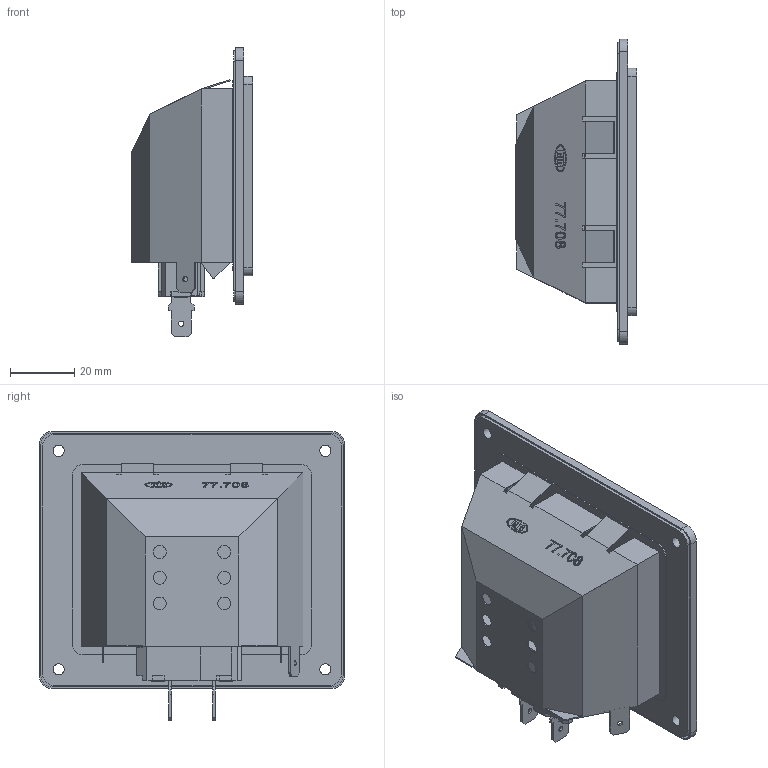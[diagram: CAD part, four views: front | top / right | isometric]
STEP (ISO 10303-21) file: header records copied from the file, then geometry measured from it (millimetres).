
FILE_DESCRIPTION( ( 'Unknown' ), '1' );
FILE_NAME( 'Z:/Datenaustausch/00Z-Z1G-05.stp', 'Unknown', ( 'Unknown' ), ( 'BJB GmbH & Co. KG' ), 'PSStep 14.0', 'Unknown', ' ' );
FILE_SCHEMA( ( 'AUTOMOTIVE_DESIGN { 1 0 10303 214 1 1 1 1 }' ) );
Length unit declared in the file: millimetre
Products named in the file (5): Assem1; 01C-20P-05; 00Z-Z0H-03; 00Z-Z0Y-0B; 00B-K04-02
Assembly tree (4 placements, depth 2):
  Assem1
    01C-20P-05
    00Z-Z0H-03
    00Z-Z0Y-0B
    00B-K04-02
Bounding box: 37.7 x 95 x 89.93 mm (x, y, z)
Volume: 39214.2 mm3; surface area: 45917.8 mm2
Topology: 4 solids, 5 shells, 488 faces, 1308 edges, 859 vertices
Faces by surface type: plane 350, cylinder 88, extrusion 21, cone 12, torus 7, bspline 6, sphere 4
Full cylindrical faces by diameter (mm): 0.5 x4, 1.101 x1, 1.395 x1, 1.65 x3, 2 x2, 2.5 x2, 3.5 x4, 3.7 x1, 4 x8
Entity records: 20255 total; most frequent: CARTESIAN_POINT 4214, ORIENTED_EDGE 2500, DIRECTION 2352, EDGE_CURVE 1250, VECTOR 976, LINE 955, VERTEX_POINT 842, AXIS2_PLACEMENT_3D 688
